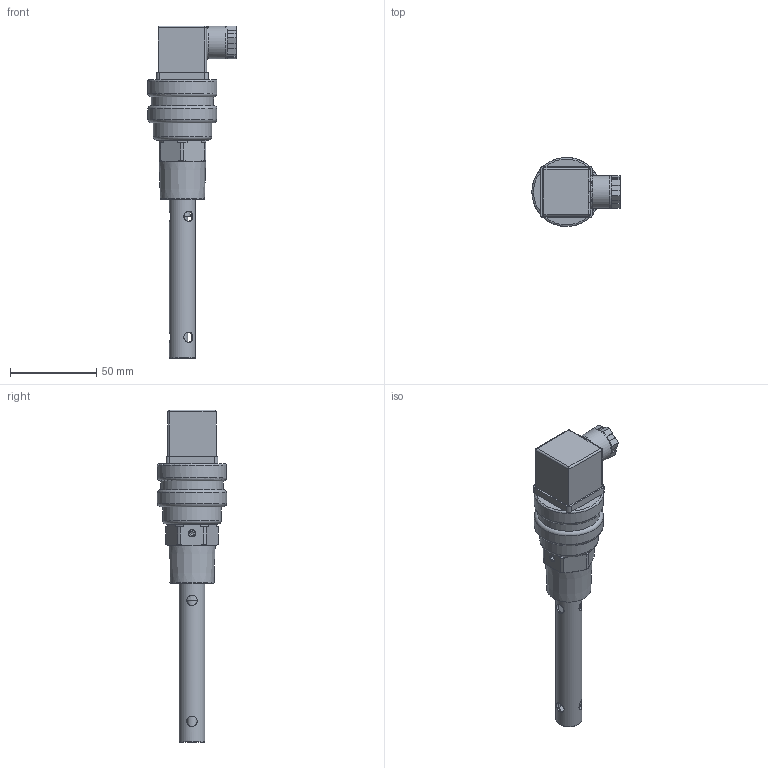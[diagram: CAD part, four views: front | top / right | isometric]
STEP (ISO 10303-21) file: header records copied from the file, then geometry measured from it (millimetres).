
FILE_DESCRIPTION((''),'2;1');
FILE_NAME('R:\Mekanisk design\HBOC-HBSO1\5. STEP files\HBSO1-SAM-KOM.stp','2013-03-06T13:01:31',('svj'),(''),'Autodesk Inventor 2013','Autodesk Inventor 2013','');
FILE_SCHEMA(('AUTOMOTIVE_DESIGN { 1 0 10303 214 1 1 1 1 }'));
Length unit declared in the file: millimetre
Products named in the file (1): HBSO1-SAM-KOM
Bounding box: 51.1 x 40 x 192.2 mm (x, y, z)
Volume: 62151.3 mm3; surface area: 43236 mm2
Topology: 1 solids, 7 shells, 734 faces, 2006 edges, 1276 vertices
Faces by surface type: plane 422, cylinder 182, bspline 46, torus 45, cone 32, sphere 7
Full cylindrical faces by diameter (mm): 0.7 x1, 1 x1, 1.1 x2, 2.459 x1, 2.7 x1, 3 x3, 3.242 x1, 3.5 x1, 4 x1, 4.134 x2, 4.5 x1, 5 x2, 5.7 x1, 5.8 x1, 5.9 x1, 6 x10, 6.2 x3, 7 x1, 8 x2, 9 x2, 10 x3, 10.5 x2, 12 x2, 12.5 x1, 12.9 x1, 13 x2, 15 x1, 16 x1, 19 x1, 19.9 x1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
Entity records: 30696 total; most frequent: CARTESIAN_POINT 12737, ORIENTED_EDGE 3626, DIRECTION 3349, EDGE_CURVE 1813, VERTEX_POINT 1218, AXIS2_PLACEMENT_3D 1181, VECTOR 987, LINE 987
